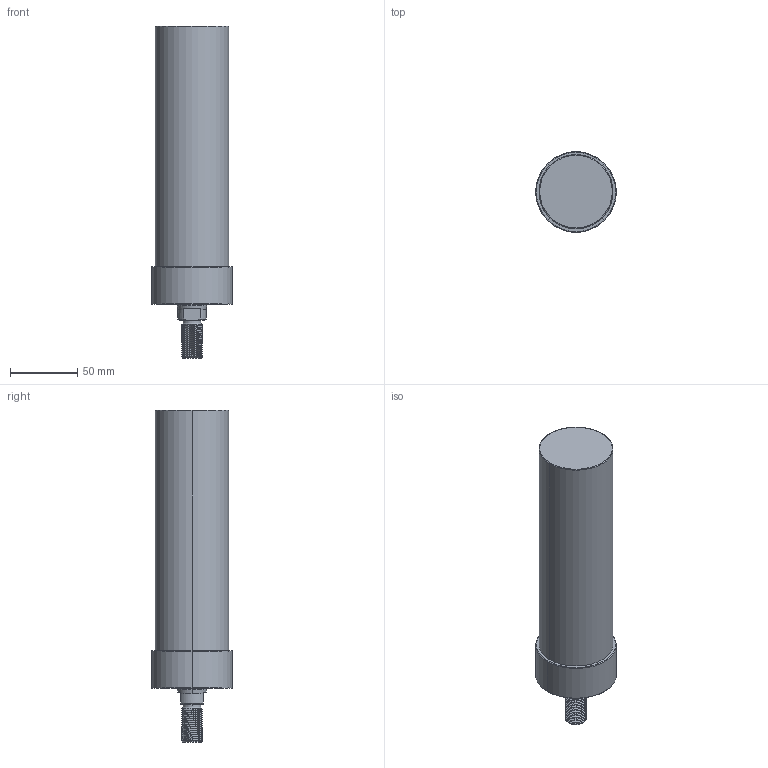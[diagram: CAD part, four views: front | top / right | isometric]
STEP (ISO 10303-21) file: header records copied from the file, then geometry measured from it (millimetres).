
FILE_DESCRIPTION (( 'STEP AP203' ), '1' );
FILE_NAME ('CLLU-055GT-150.STEP', '2020-01-16T02:05:10', ( '' ), ( '' ), 'SwSTEP 2.0', 'SolidWorks 2015', '' );
FILE_SCHEMA (( 'CONFIG_CONTROL_DESIGN' ));
Length unit declared in the file: millimetre
Products named in the file (1): CLLU-055GT-150
Bounding box: 60 x 60 x 247 mm (x, y, z)
Volume: 511676.5 mm3; surface area: 45934.2 mm2
Topology: 1 solids, 1 shells, 102 faces, 254 edges, 155 vertices
Faces by surface type: cylinder 56, cone 26, plane 12, torus 6, bspline 2
Entity records: 4903 total; most frequent: CARTESIAN_POINT 2612, ORIENTED_EDGE 492, DIRECTION 445, EDGE_CURVE 246, AXIS2_PLACEMENT_3D 178, VERTEX_POINT 155, EDGE_LOOP 111, FACE_OUTER_BOUND 102
